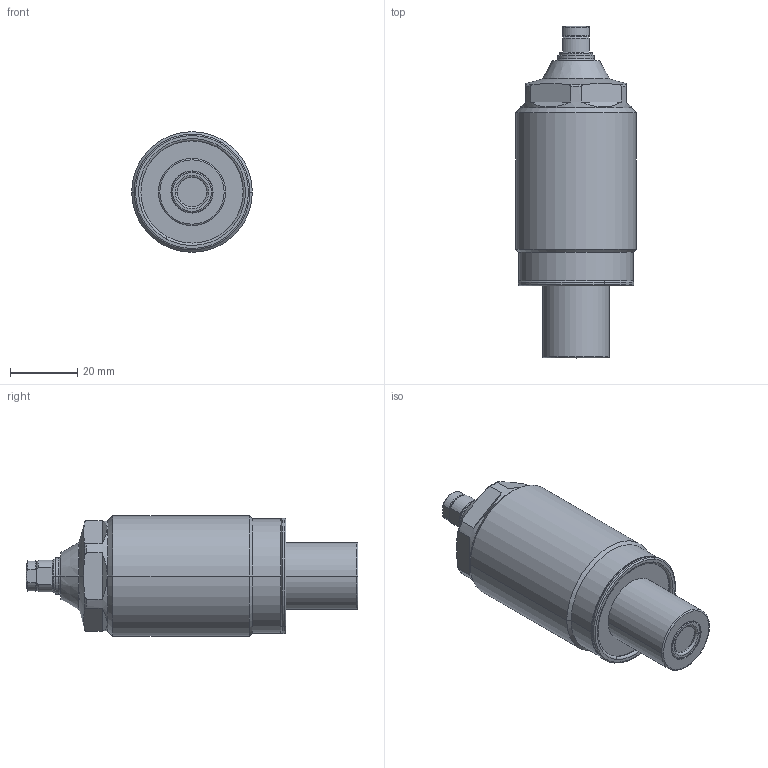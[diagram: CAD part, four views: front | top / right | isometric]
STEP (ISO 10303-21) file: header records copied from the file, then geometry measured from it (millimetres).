
FILE_DESCRIPTION(/* description */ (''),/* implementation_level */ '2;1');
FILE_NAME(/* name */ 'TNL36-Q.stp',/* time_stamp */ '2024-01-06T15:19:01+08:00',/* author */ (''),/* organization */ (''),/* preprocessor_version */ 'ST-DEVELOPER v16.7',/* originating_system */ 'SIEMENS PLM Software NX 12.0',/* authorisation */ '');
FILE_SCHEMA (('AP203_CONFIGURATION_CONTROLLED_3D_DESIGN_OF_MECHANICAL_PARTS_AND_ASSEMBLIES_MIM_LF { 1 0 10303 403 2 1 2}'));
Length unit declared in the file: millimetre
Products named in the file (6): TNL36-Q-05; TNL36-Q-04; TNL36-Q-03; TNL36-Q-02; TNL36-Q-01; WNC1603-Q_step
Assembly tree (5 placements, depth 2):
  WNC1603-Q_step
    TNL36-Q-01
    TNL36-Q-02
    TNL36-Q-03
    TNL36-Q-04
    TNL36-Q-05
Bounding box: 36 x 99 x 36 mm (x, y, z)
Volume: 66959.3 mm3; surface area: 12755.2 mm2
Topology: 5 solids, 5 shells, 152 faces, 336 edges, 203 vertices
Faces by surface type: torus 48, cylinder 42, plane 36, cone 24, sphere 2
Entity records: 5215 total; most frequent: CARTESIAN_POINT 1099, DIRECTION 808, ORIENTED_EDGE 672, AXIS2_PLACEMENT_3D 358, EDGE_CURVE 336, VERTEX_POINT 203, CIRCLE 200, EDGE_LOOP 167
